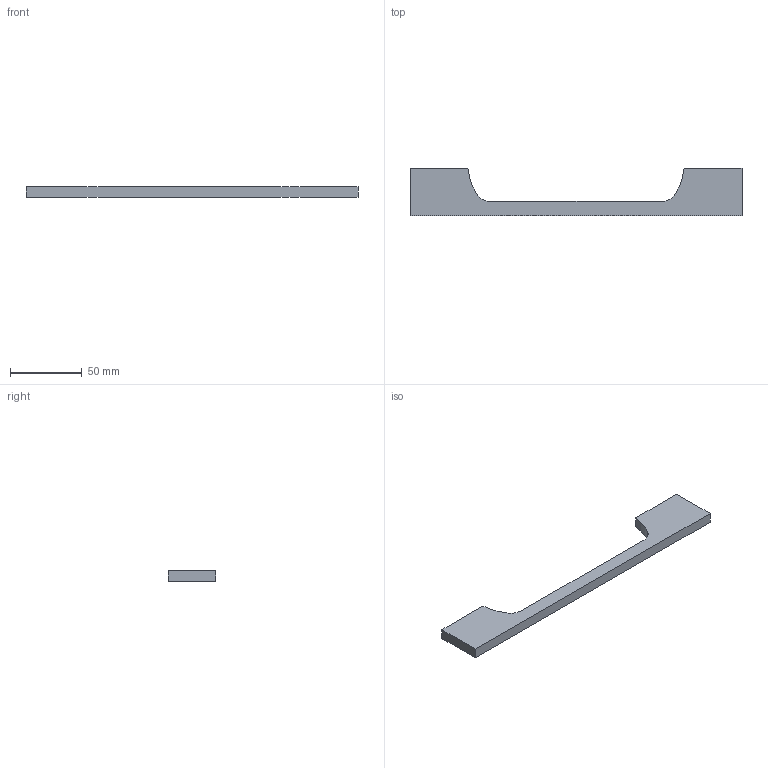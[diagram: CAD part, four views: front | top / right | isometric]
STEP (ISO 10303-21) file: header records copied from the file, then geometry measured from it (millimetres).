
FILE_DESCRIPTION( ( '' ), '1' );
FILE_NAME( 'D:/1.AUTOCAD EXPORT/Group 10/sheet_10_1/9071926.stp', '2013-10-22T04:20:45', ( '' ), ( '' ), ' ', ' ', ' ' );
FILE_SCHEMA( ( 'automotive_design' ) );
Length unit declared in the file: millimetre
Products named in the file (1): 1
Bounding box: 232 x 33 x 7.5 mm (x, y, z)
Volume: 32246.6 mm3; surface area: 13305.5 mm2
Topology: 1 solids, 1 shells, 24 faces, 54 edges, 36 vertices
Faces by surface type: cylinder 12, plane 12
Entity records: 1348 total; most frequent: DIRECTION 128, STYLED_ITEM 115, PRESENTATION_STYLE_ASSIGNMENT 115, CARTESIAN_POINT 115, COLOUR_RGB 115, ORIENTED_EDGE 108, EDGE_CURVE 54, CURVE_STYLE 54
